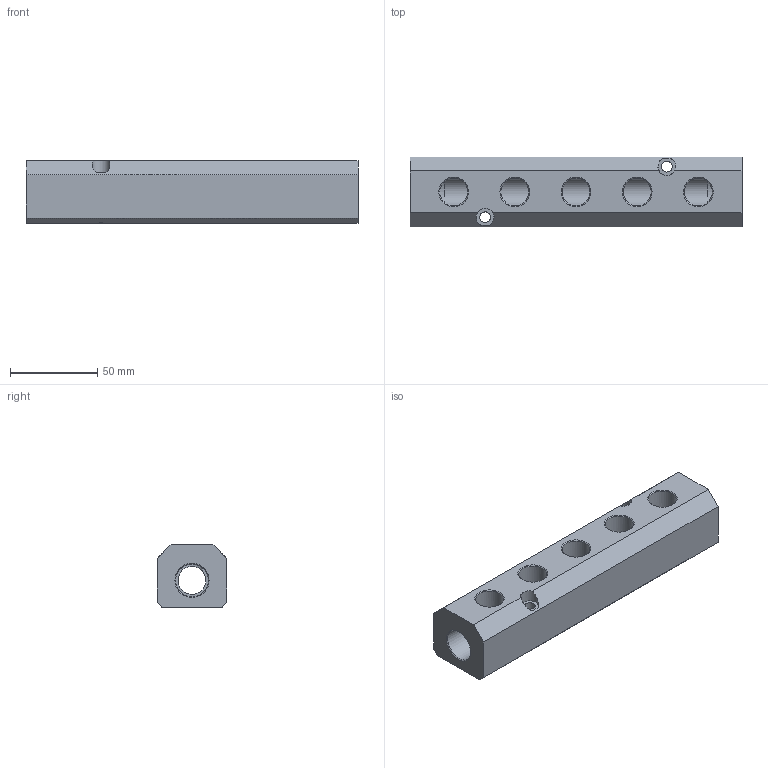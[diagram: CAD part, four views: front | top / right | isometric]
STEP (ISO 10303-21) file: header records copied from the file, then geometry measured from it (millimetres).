
FILE_DESCRIPTION(/* description */ (''),/* implementation_level */ '2;1');
FILE_NAME(/* name */ '60107000004.stp',/* time_stamp */ '2022-06-14T14:52:23+08:00',/* author */ (''),/* organization */ (''),/* preprocessor_version */ 'ST-DEVELOPER v11',/* originating_system */ 'SIEMENS PLM Software NX 7.5',/* authorisation */ '');
FILE_SCHEMA (('CONFIG_CONTROL_DESIGN'));
Length unit declared in the file: millimetre
Products named in the file (1): Admi5148g0xe
Bounding box: 190 x 40 x 36 mm (x, y, z)
Volume: 202525 mm3; surface area: 41251.9 mm2
Topology: 1 solids, 1 shells, 35 faces, 118 edges, 78 vertices
Faces by surface type: cylinder 14, plane 14, cone 7
Full cylindrical faces by diameter (mm): 6.2 x2, 16 x6, 18.6 x2
Entity records: 1158 total; most frequent: CARTESIAN_POINT 194, DIRECTION 190, ORIENTED_EDGE 160, EDGE_CURVE 80, AXIS2_PLACEMENT_3D 78, EDGE_LOOP 62, VERTEX_POINT 62, FACE_BOUND 51
